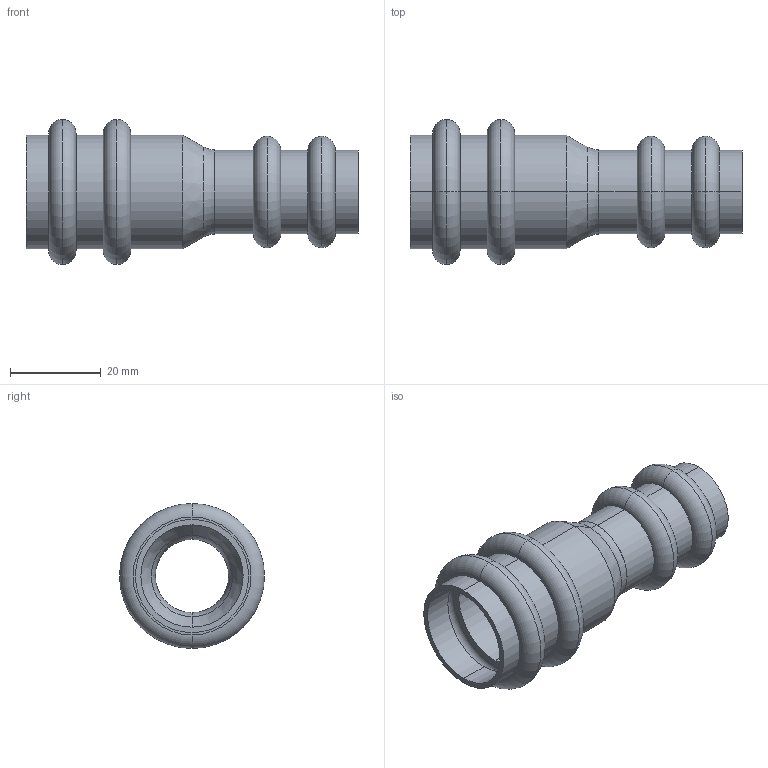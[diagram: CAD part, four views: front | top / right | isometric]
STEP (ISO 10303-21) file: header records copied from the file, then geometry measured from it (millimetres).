
FILE_DESCRIPTION(('starvars output'),'1');
FILE_NAME('cv20240422105334000011617.stp','10:53:35 2024/04/22',('Thomas Industrial Network Germany GmbH'),(' '),'Spatial InterOp 3D',' ',' ');
FILE_SCHEMA(('AUTOMOTIVE_DESIGN { 1 0 10303 214 3 1 1 }'));
Length unit declared in the file: millimetre
Products named in the file (1): 1
Bounding box: 73 x 31.9 x 31.9 mm (x, y, z)
Volume: 7840 mm3; surface area: 12888.4 mm2
Topology: 1 solids, 1 shells, 84 faces, 168 edges, 104 vertices
Faces by surface type: torus 36, cylinder 24, plane 20, cone 4
Entity records: 2940 total; most frequent: DIRECTION 478, CARTESIAN_POINT 357, ORIENTED_EDGE 336, AXIS2_PLACEMENT_3D 225, EDGE_CURVE 168, CIRCLE 140, EDGE_LOOP 104, VERTEX_POINT 104
